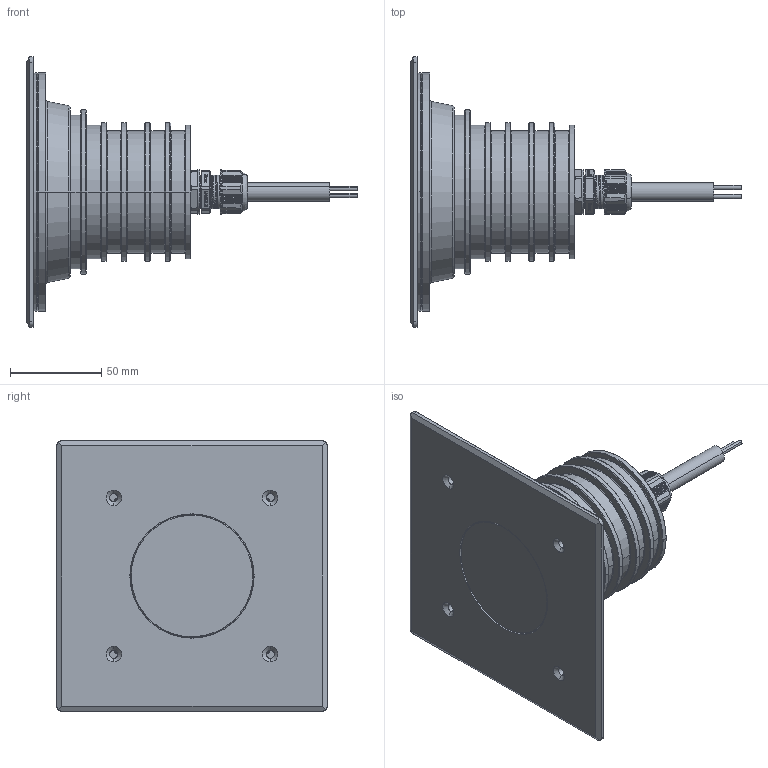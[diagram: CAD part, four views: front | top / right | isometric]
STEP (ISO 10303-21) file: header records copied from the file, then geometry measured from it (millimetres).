
FILE_DESCRIPTION (( 'STEP AP203' ), '1' );
FILE_NAME ('GROUND MEDIUM SQ.STEP', '2023-04-03T13:24:14', ( '' ), ( '' ), 'SwSTEP 2.0', 'SolidWorks 2017', '' );
FILE_SCHEMA (( 'CONFIG_CONTROL_DESIGN' ));
Length unit declared in the file: millimetre
Products named in the file (1): GROUND MEDIUM SQ
Bounding box: 180.72 x 148 x 148 mm (x, y, z)
Surface area: 157879.2 mm2 (no closed solid volume)
Topology: 0 solids, 22 shells, 1713 faces, 4239 edges, 2647 vertices
Faces by surface type: plane 760, bspline 459, cylinder 266, cone 212, torus 16
Full cylindrical faces by diameter (mm): 16.6 x2
Entity records: 66228 total; most frequent: CARTESIAN_POINT 29941, ORIENTED_EDGE 8409, DIRECTION 6118, EDGE_CURVE 4212, VERTEX_POINT 2644, AXIS2_PLACEMENT_3D 2063, VECTOR 1992, LINE 1992
